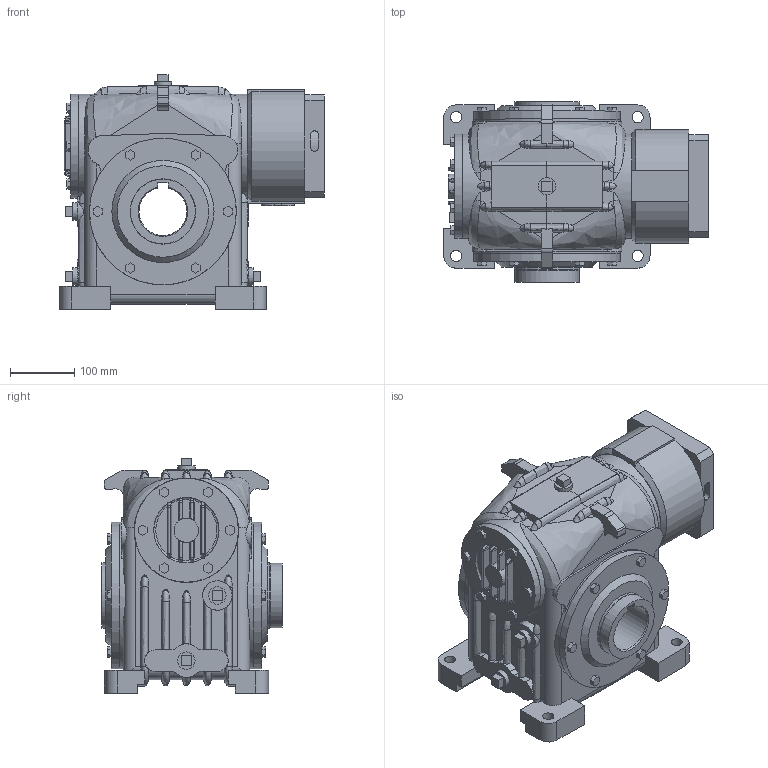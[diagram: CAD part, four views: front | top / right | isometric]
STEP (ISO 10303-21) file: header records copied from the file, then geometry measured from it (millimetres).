
FILE_DESCRIPTION(/* description */ ('Unknown'),/* implementation_level */ '2;1');
FILE_NAME(/* name */ 'O40CR-1-B12CBE-',/* time_stamp */ '2024-11-21T10:50:41-05:00',/* author */ ('Unknown'),/* organization */ ('Unknown'),/* preprocessor_version */ 'ST-DEVELOPER v19.4',/* originating_system */ 'Solid Edge',/* authorisation */ 'Unknown');
FILE_SCHEMA (('AUTOMOTIVE_DESIGN {1 0 10303 214 3 1 1}'));
Length unit declared in the file: millimetre
Products named in the file (8): O40CR-1-B12CBE-; 40-1-CP; 40-OUTHS-2937; 40-OUTH-2937; 40-WCAP; 40-SM20-CP; MP3B-12-CP; KLC125-C-16
Assembly tree (7 placements, depth 2):
  O40CR-1-B12CBE-
    40-1-CP
    40-OUTHS-2937
    40-OUTH-2937
    40-WCAP
    40-SM20-CP
    MP3B-12-CP
    KLC125-C-16
Bounding box: 411.65 x 280.99 x 365.38 mm (x, y, z)
Volume: 18951868.1 mm3; surface area: 1198439.1 mm2
Topology: 7 solids, 7 shells, 699 faces, 1810 edges, 1191 vertices
Faces by surface type: plane 415, cylinder 137, bspline 124, torus 13, cone 10
Full cylindrical faces by diameter (mm): 0.254 x7, 5.188 x4, 9.525 x8, 14.122 x6, 17.462 x4, 26.924 x4, 38.087 x1, 38.1 x1, 39.688 x1, 45.72 x2, 63 x1, 77 x1, 80 x1, 98.425 x1, 100.965 x1, 101.6 x5, 102.108 x3, 105 x1, 120.218 x1, 150.012 x1, 150.05 x1, 161.925 x1, 162.56 x2, 228.599 x2, 228.6 x2
Entity records: 31570 total; most frequent: CARTESIAN_POINT 14093, ORIENTED_EDGE 3442, DIRECTION 2844, EDGE_CURVE 1721, VERTEX_POINT 1171, AXIS2_PLACEMENT_3D 952, LINE 940, VECTOR 940
